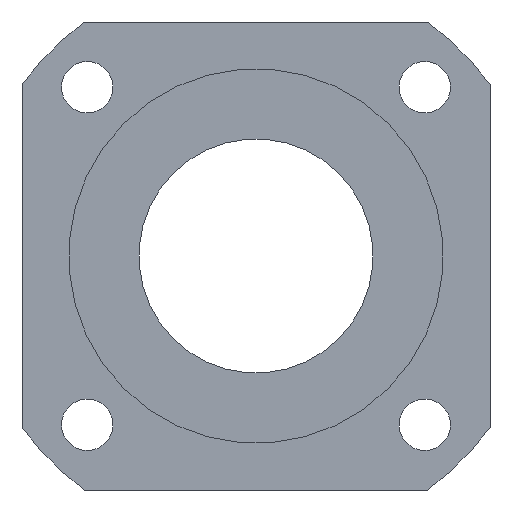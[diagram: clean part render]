
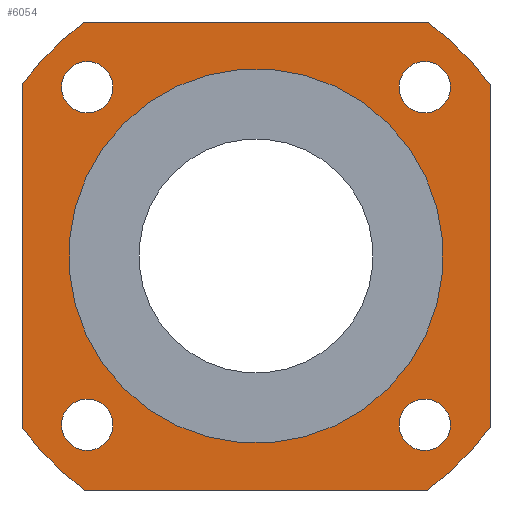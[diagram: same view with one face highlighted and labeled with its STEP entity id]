
A CAD part, left-side view. The second image highlights one B-rep face of the part: STEP entity #6054.
In plain terms, the highlighted planar face has unit normal (-1, 0, 0).
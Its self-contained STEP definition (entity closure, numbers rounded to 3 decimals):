
#106=CIRCLE('',#6419,31.);
#107=CIRCLE('',#6421,31.);
#108=CIRCLE('',#6423,31.);
#118=CIRCLE('',#6438,20.);
#120=CIRCLE('',#6443,31.);
#121=CIRCLE('',#6444,2.75);
#122=CIRCLE('',#6445,2.75);
#123=CIRCLE('',#6446,2.75);
#124=CIRCLE('',#6447,2.75);
#349=LINE('',#9575,#1076);
#350=LINE('',#9576,#1077);
#351=LINE('',#9577,#1078);
#352=LINE('',#9581,#1079);
#1076=VECTOR('',#7027,1000.);
#1077=VECTOR('',#7028,1000.);
#1078=VECTOR('',#7029,1000.);
#1079=VECTOR('',#7032,1000.);
#1883=ORIENTED_EDGE('',*,*,#3631,.T.);
#1884=ORIENTED_EDGE('',*,*,#3614,.F.);
#1885=ORIENTED_EDGE('',*,*,#3632,.T.);
#1886=ORIENTED_EDGE('',*,*,#3617,.F.);
#1887=ORIENTED_EDGE('',*,*,#3633,.T.);
#1888=ORIENTED_EDGE('',*,*,#3634,.F.);
#1889=ORIENTED_EDGE('',*,*,#3635,.T.);
#1890=ORIENTED_EDGE('',*,*,#3612,.F.);
#1891=ORIENTED_EDGE('',*,*,#3636,.T.);
#1892=ORIENTED_EDGE('',*,*,#3637,.T.);
#1893=ORIENTED_EDGE('',*,*,#3638,.T.);
#1894=ORIENTED_EDGE('',*,*,#3639,.T.);
#1895=ORIENTED_EDGE('',*,*,#3629,.T.);
#3612=EDGE_CURVE('',#4488,#4489,#106,.T.);
#3614=EDGE_CURVE('',#4490,#4491,#107,.T.);
#3617=EDGE_CURVE('',#4492,#4493,#108,.T.);
#3629=EDGE_CURVE('',#4503,#4503,#118,.T.);
#3631=EDGE_CURVE('',#4488,#4491,#349,.T.);
#3632=EDGE_CURVE('',#4490,#4493,#350,.T.);
#3633=EDGE_CURVE('',#4492,#4505,#351,.T.);
#3634=EDGE_CURVE('',#4506,#4505,#120,.T.);
#3635=EDGE_CURVE('',#4506,#4489,#352,.T.);
#3636=EDGE_CURVE('',#4507,#4507,#121,.T.);
#3637=EDGE_CURVE('',#4508,#4508,#122,.T.);
#3638=EDGE_CURVE('',#4509,#4509,#123,.T.);
#3639=EDGE_CURVE('',#4510,#4510,#124,.T.);
#4488=VERTEX_POINT('',#9529);
#4489=VERTEX_POINT('',#9531);
#4490=VERTEX_POINT('',#9535);
#4491=VERTEX_POINT('',#9536);
#4492=VERTEX_POINT('',#9541);
#4493=VERTEX_POINT('',#9542);
#4503=VERTEX_POINT('',#9569);
#4505=VERTEX_POINT('',#9578);
#4506=VERTEX_POINT('',#9580);
#4507=VERTEX_POINT('',#9583);
#4508=VERTEX_POINT('',#9585);
#4509=VERTEX_POINT('',#9587);
#4510=VERTEX_POINT('',#9589);
#4984=EDGE_LOOP('',(#1883,#1884,#1885,#1886,#1887,#1888,#1889,#1890));
#4985=EDGE_LOOP('',(#1891));
#4986=EDGE_LOOP('',(#1892));
#4987=EDGE_LOOP('',(#1893));
#4988=EDGE_LOOP('',(#1894));
#4989=EDGE_LOOP('',(#1895));
#5407=FACE_BOUND('',#4984,.T.);
#5408=FACE_BOUND('',#4985,.T.);
#5409=FACE_BOUND('',#4986,.T.);
#5410=FACE_BOUND('',#4987,.T.);
#5411=FACE_BOUND('',#4988,.T.);
#5412=FACE_BOUND('',#4989,.T.);
#5774=PLANE('',#6442);
#6054=ADVANCED_FACE('',(#5407,#5408,#5409,#5410,#5411,#5412),#5774,.F.);
#6419=AXIS2_PLACEMENT_3D('',#9530,#6974,#6975);
#6421=AXIS2_PLACEMENT_3D('',#9534,#6979,#6980);
#6423=AXIS2_PLACEMENT_3D('',#9540,#6985,#6986);
#6438=AXIS2_PLACEMENT_3D('',#9568,#7017,#7018);
#6442=AXIS2_PLACEMENT_3D('',#9574,#7025,#7026);
#6443=AXIS2_PLACEMENT_3D('',#9579,#7030,#7031);
#6444=AXIS2_PLACEMENT_3D('',#9582,#7033,#7034);
#6445=AXIS2_PLACEMENT_3D('',#9584,#7035,#7036);
#6446=AXIS2_PLACEMENT_3D('',#9586,#7037,#7038);
#6447=AXIS2_PLACEMENT_3D('',#9588,#7039,#7040);
#6974=DIRECTION('',(1.,0.,0.));
#6975=DIRECTION('',(0.,0.707,-0.707));
#6979=DIRECTION('',(1.,0.,0.));
#6980=DIRECTION('',(0.,0.707,-0.707));
#6985=DIRECTION('',(1.,0.,0.));
#6986=DIRECTION('',(0.,0.707,-0.707));
#7017=DIRECTION('',(1.,0.,0.));
#7018=DIRECTION('',(0.,0.707,-0.707));
#7025=DIRECTION('',(1.,0.,0.));
#7026=DIRECTION('',(0.,0.707,-0.707));
#7027=DIRECTION('',(0.,0.,1.));
#7028=DIRECTION('',(0.,1.,0.));
#7029=DIRECTION('',(0.,0.,-1.));
#7030=DIRECTION('',(1.,0.,0.));
#7031=DIRECTION('',(0.,0.707,-0.707));
#7032=DIRECTION('',(0.,-1.,0.));
#7033=DIRECTION('',(1.,0.,0.));
#7034=DIRECTION('',(0.,0.707,-0.707));
#7035=DIRECTION('',(1.,0.,0.));
#7036=DIRECTION('',(0.,0.707,-0.707));
#7037=DIRECTION('',(1.,0.,0.));
#7038=DIRECTION('',(0.,0.707,-0.707));
#7039=DIRECTION('',(1.,0.,0.));
#7040=DIRECTION('',(0.,0.707,-0.707));
#9529=CARTESIAN_POINT('',(48.,-25.,-18.33));
#9530=CARTESIAN_POINT('',(48.,0.,0.));
#9531=CARTESIAN_POINT('',(48.,-18.33,-25.));
#9534=CARTESIAN_POINT('',(48.,0.,0.));
#9535=CARTESIAN_POINT('',(48.,-18.33,25.));
#9536=CARTESIAN_POINT('',(48.,-25.,18.33));
#9540=CARTESIAN_POINT('',(48.,0.,0.));
#9541=CARTESIAN_POINT('',(48.,25.,18.33));
#9542=CARTESIAN_POINT('',(48.,18.33,25.));
#9568=CARTESIAN_POINT('',(48.,0.,0.));
#9569=CARTESIAN_POINT('',(48.,14.142,-14.142));
#9574=CARTESIAN_POINT('',(48.,0.,0.));
#9575=CARTESIAN_POINT('',(48.,-25.,25.));
#9576=CARTESIAN_POINT('',(48.,25.,25.));
#9577=CARTESIAN_POINT('',(48.,25.,-25.));
#9578=CARTESIAN_POINT('',(48.,25.,-18.33));
#9579=CARTESIAN_POINT('',(48.,0.,0.));
#9580=CARTESIAN_POINT('',(48.,18.33,-25.));
#9581=CARTESIAN_POINT('',(48.,-25.,-25.));
#9582=CARTESIAN_POINT('',(48.,18.031,-18.031));
#9583=CARTESIAN_POINT('',(48.,19.976,-19.976));
#9584=CARTESIAN_POINT('',(48.,-18.031,-18.031));
#9585=CARTESIAN_POINT('',(48.,-16.087,-19.976));
#9586=CARTESIAN_POINT('',(48.,-18.031,18.031));
#9587=CARTESIAN_POINT('',(48.,-16.087,16.087));
#9588=CARTESIAN_POINT('',(48.,18.031,18.031));
#9589=CARTESIAN_POINT('',(48.,19.976,16.087));
